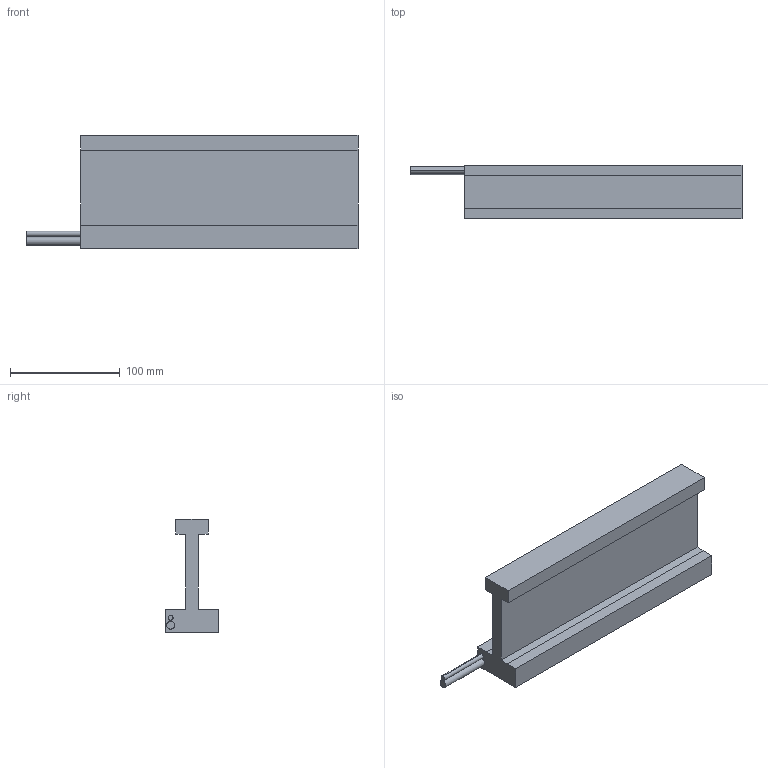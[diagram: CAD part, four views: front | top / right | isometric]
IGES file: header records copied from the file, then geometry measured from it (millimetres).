
Start section: SolidWorks IGES file using analytic representation for surfaces
Global section: file name: C:\Users\admin\Desktop\LM无铁芯U型电机 - 副本\FU700模型图\FU700-253.IGS; native system: SolidWorks 2016; preprocessor: SolidWorks 2016; author: admin; date: 201103.134554; units: millimetre
Bounding box: 303 x 49 x 103.5 mm (x, y, z)
Surface area: 94194.5 mm2 (no closed solid volume)
Topology: 0 solids, 0 shells, 66 faces, 756 edges, 734 vertices
Faces by surface type: revolution 48, bspline 18
